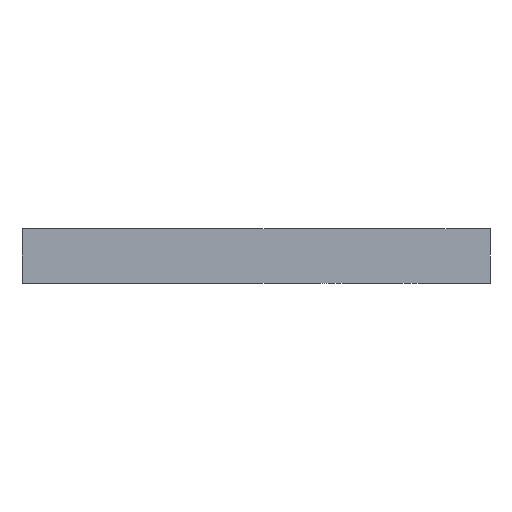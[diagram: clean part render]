
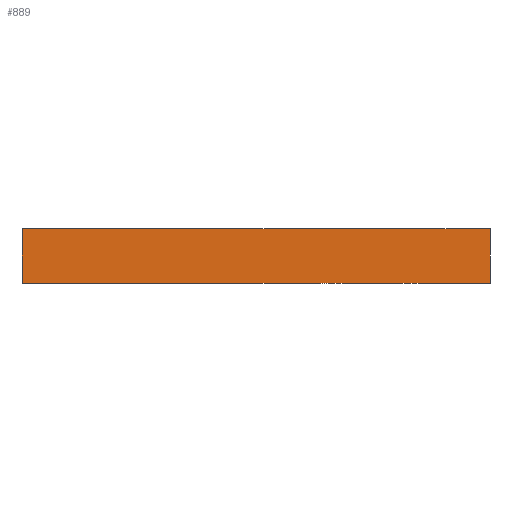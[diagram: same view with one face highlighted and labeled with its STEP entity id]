
A CAD part, front view. The second image highlights one B-rep face of the part: STEP entity #889.
In plain terms, the highlighted planar face has unit normal (0, -1, 0).
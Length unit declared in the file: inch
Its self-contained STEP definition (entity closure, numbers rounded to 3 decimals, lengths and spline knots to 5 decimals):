
#5 = EDGE_CURVE ( 'NONE', #264, #1300, #414, .T. ) ;
#12 = CARTESIAN_POINT ( 'NONE',  ( 0., 21.60423, -3.074 ) ) ;
#14 = CARTESIAN_POINT ( 'NONE',  ( 0., 21.60423, -3.324 ) ) ;
#51 = FACE_OUTER_BOUND ( 'NONE', #754, .T. ) ;
#101 = ORIENTED_EDGE ( 'NONE', *, *, #549, .F. ) ;
#125 = DIRECTION ( 'NONE',  ( -1., 0., 0. ) ) ;
#171 = ORIENTED_EDGE ( 'NONE', *, *, #1116, .F. ) ;
#238 = LINE ( 'NONE', #12, #386 ) ;
#242 = EDGE_CURVE ( 'NONE', #936, #1316, #1078, .T. ) ;
#264 = VERTEX_POINT ( 'NONE', #516 ) ;
#343 = DIRECTION ( 'NONE',  ( 1., 0., 0. ) ) ;
#383 = CARTESIAN_POINT ( 'NONE',  ( 0., 21.60423, 0.23255 ) ) ;
#386 = VECTOR ( 'NONE', #343, 39.37008 ) ;
#406 = VECTOR ( 'NONE', #528, 39.37008 ) ;
#408 = VECTOR ( 'NONE', #125, 39.37008 ) ;
#414 = LINE ( 'NONE', #418, #773 ) ;
#418 = CARTESIAN_POINT ( 'NONE',  ( -30.67815, 21.60423, 0.23255 ) ) ;
#507 = CARTESIAN_POINT ( 'NONE',  ( -30.67815, 21.60423, -3.324 ) ) ;
#516 = CARTESIAN_POINT ( 'NONE',  ( -30.67815, 21.60423, -3.074 ) ) ;
#528 = DIRECTION ( 'NONE',  ( 0., 0., -1. ) ) ;
#549 = EDGE_CURVE ( 'NONE', #1300, #1316, #710, .T. ) ;
#622 = DIRECTION ( 'NONE',  ( 0., -1., 0. ) ) ;
#677 = ORIENTED_EDGE ( 'NONE', *, *, #5, .F. ) ;
#710 = LINE ( 'NONE', #14, #408 ) ;
#754 = EDGE_LOOP ( 'NONE', ( #171, #799, #101, #677 ) ) ;
#773 = VECTOR ( 'NONE', #868, 39.37008 ) ;
#799 = ORIENTED_EDGE ( 'NONE', *, *, #242, .T. ) ;
#822 = CARTESIAN_POINT ( 'NONE',  ( -32.81156, 21.60423, -3.074 ) ) ;
#866 = CARTESIAN_POINT ( 'NONE',  ( -32.81156, 21.60423, 0.23255 ) ) ;
#868 = DIRECTION ( 'NONE',  ( 0., 0., -1. ) ) ;
#889 = ADVANCED_FACE ( 'NONE', ( #51 ), #1298, .T. ) ;
#936 = VERTEX_POINT ( 'NONE', #822 ) ;
#964 = CARTESIAN_POINT ( 'NONE',  ( -32.81156, 21.60423, -3.324 ) ) ;
#1078 = LINE ( 'NONE', #866, #406 ) ;
#1116 = EDGE_CURVE ( 'NONE', #936, #264, #238, .T. ) ;
#1165 = DIRECTION ( 'NONE',  ( 0., 0., -1. ) ) ;
#1284 = AXIS2_PLACEMENT_3D ( 'NONE', #383, #622, #1165 ) ;
#1298 = PLANE ( 'NONE',  #1284 ) ;
#1300 = VERTEX_POINT ( 'NONE', #507 ) ;
#1316 = VERTEX_POINT ( 'NONE', #964 ) ;
